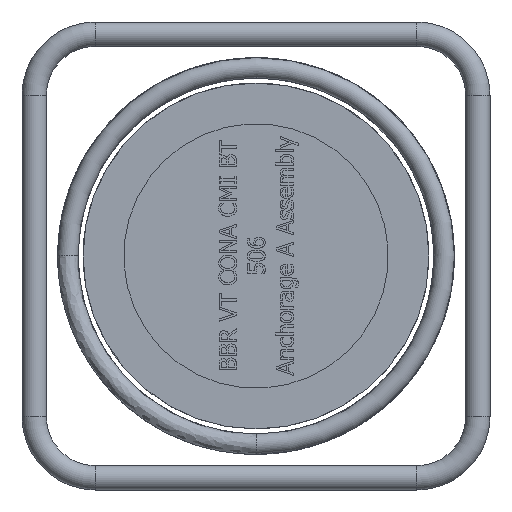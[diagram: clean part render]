
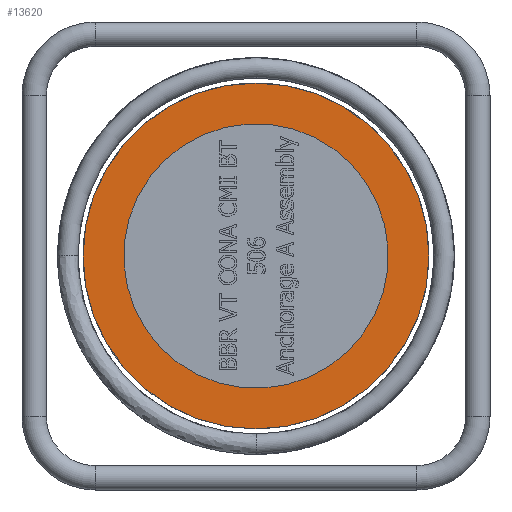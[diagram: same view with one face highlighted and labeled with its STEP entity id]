
A CAD part, left-side view. The second image highlights one B-rep face of the part: STEP entity #13620.
In plain terms, the highlighted planar face has unit normal (-1, 0, 0).
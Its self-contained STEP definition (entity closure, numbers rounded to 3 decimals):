
#3567=PLANE('',#14296);
#4273=FACE_OUTER_BOUND('',#5079,.T.);
#5079=EDGE_LOOP('',(#12398));
#5327=CIRCLE('',#14297,85.);
#6617=VERTEX_POINT('',#28533);
#8552=EDGE_CURVE('',#6617,#6617,#5327,.T.);
#12398=ORIENTED_EDGE('',*,*,#8552,.T.);
#13620=ADVANCED_FACE('',(#4273),#3567,.T.);
#14296=AXIS2_PLACEMENT_3D('',#28532,#16650,#16651);
#14297=AXIS2_PLACEMENT_3D('',#28534,#16652,#16653);
#16650=DIRECTION('center_axis',(-1.,0.,0.));
#16651=DIRECTION('ref_axis',(0.,1.,0.));
#16652=DIRECTION('center_axis',(-1.,0.,0.));
#16653=DIRECTION('ref_axis',(0.,0.,
1.));
#28532=CARTESIAN_POINT('Origin',(75.016,0.,
66.));
#28533=CARTESIAN_POINT('',(75.016,0.,-85.));
#28534=CARTESIAN_POINT('Origin',(75.016,0.,
0.));
